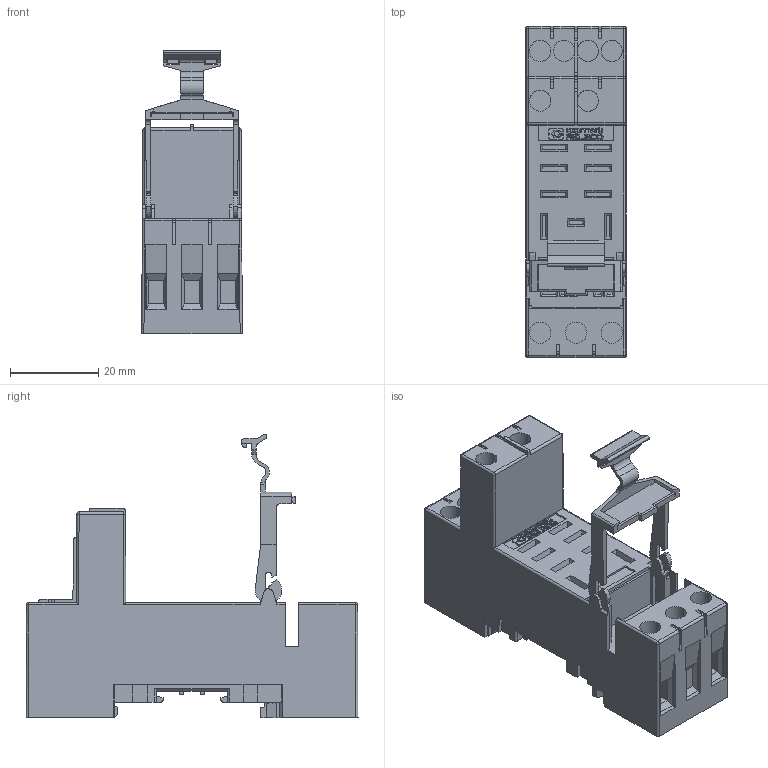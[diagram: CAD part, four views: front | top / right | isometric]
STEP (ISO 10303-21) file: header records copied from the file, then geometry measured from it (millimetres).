
FILE_DESCRIPTION (( 'STEP AP214' ), '1' );
FILE_NAME ('S7-IO.STEP', '2024-04-11T06:23:03', ( '' ), ( '' ), 'SwSTEP 2.0', 'SolidWorks 2022', '' );
FILE_SCHEMA (( 'AUTOMOTIVE_DESIGN' ));
Length unit declared in the file: millimetre
Products named in the file (1): S7-IO
Bounding box: 22.73 x 75.07 x 64.03 mm (x, y, z)
Volume: 40475.5 mm3; surface area: 15731.6 mm2
Topology: 1 solids, 4 shells, 1102 faces, 3070 edges, 1993 vertices
Faces by surface type: plane 899, cylinder 126, bspline 73, sphere 4
Entity records: 42373 total; most frequent: CARTESIAN_POINT 9780, ORIENTED_EDGE 6140, DIRECTION 4882, EDGE_CURVE 3070, LINE 2512, VECTOR 2512, VERTEX_POINT 1993, AXIS2_PLACEMENT_3D 1185
